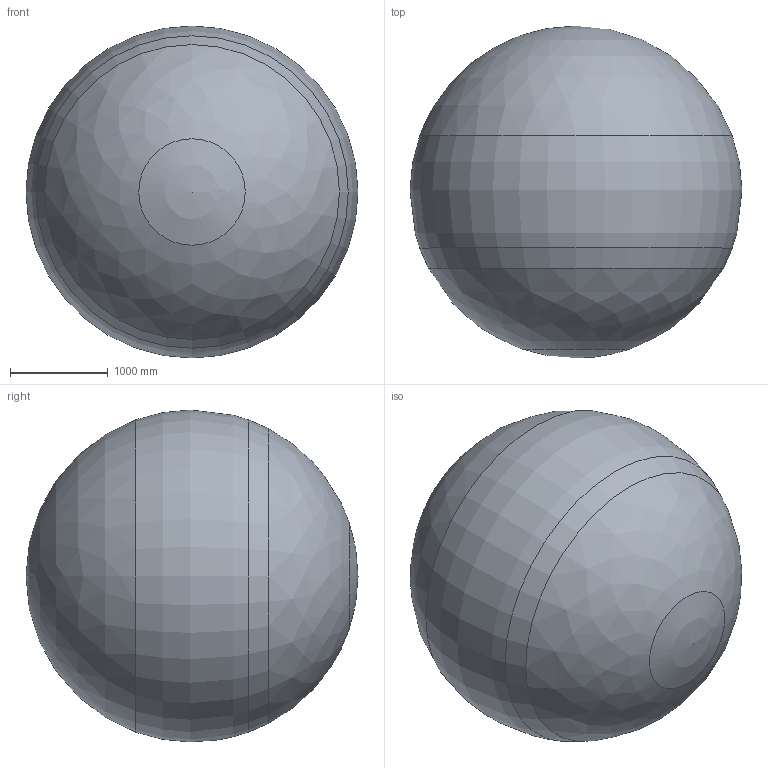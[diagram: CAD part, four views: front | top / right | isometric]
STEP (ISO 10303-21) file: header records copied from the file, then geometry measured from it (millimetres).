
FILE_DESCRIPTION(/* description */ (''),/* implementation_level */ '2;1');
FILE_NAME(/* name */ 'HC30PL.stp',/* time_stamp */ '2022-09-07T14:53:14+02:00',/* author */ (''),/* organization */ (''),/* preprocessor_version */ 'ST-DEVELOPER v16.7',/* originating_system */ 'SIEMENS PLM Software NX 1919',/* authorisation */ '');
FILE_SCHEMA (('AUTOMOTIVE_DESIGN { 1 0 10303 214 3 1 1 1 }'));
Products named in the file (9): HC30-PL-Range; T_VIEW_YR-1-06VXCP30-B00; B_VIEW_YR-1-06VXCP30-B00; R_VIEW_YR-1-06VXCP30-B00; U_VIEW_YR-1-06VXCP30-B00; L_VIEW_YR-1-06VXCP30-B00; S_VIEW_YR-1-06VXCP30-B00; BASE_VIEW_YR-1-06VXCP30-B00; HC30PL
Assembly tree (8 placements, depth 2):
  HC30PL
    BASE_VIEW_YR-1-06VXCP30-B00
    S_VIEW_YR-1-06VXCP30-B00
    L_VIEW_YR-1-06VXCP30-B00
    U_VIEW_YR-1-06VXCP30-B00
    R_VIEW_YR-1-06VXCP30-B00
    B_VIEW_YR-1-06VXCP30-B00
    T_VIEW_YR-1-06VXCP30-B00
    HC30-PL-Range
Bounding box: 3399.84 x 3400 x 3399.84 mm (x, y, z)
Volume: 20321914387 mm3; surface area: 41684473 mm2
Topology: 8 solids, 15 shells, 4348 faces, 10508 edges, 6375 vertices
Faces by surface type: bspline 1220, cylinder 1165, plane 1025, cone 531, torus 326, sphere 53, revolution 19, extrusion 9
Full cylindrical faces by diameter (mm): 192 x1
Entity records: 235202 total; most frequent: CARTESIAN_POINT 142651, ORIENTED_EDGE 20886, DIRECTION 17028, EDGE_CURVE 10443, AXIS2_PLACEMENT_3D 7044, VERTEX_POINT 6362, EDGE_LOOP 4594, ADVANCED_FACE 4343
